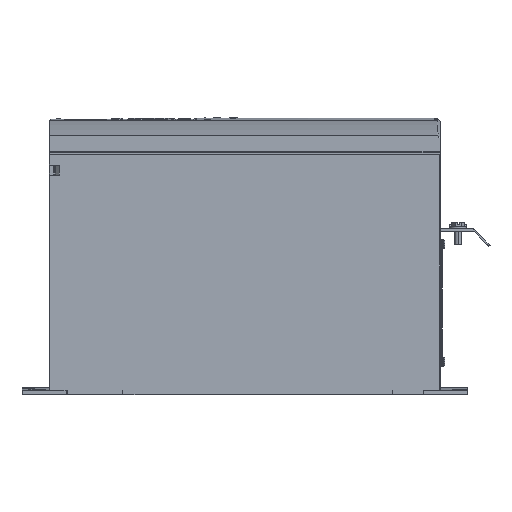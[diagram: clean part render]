
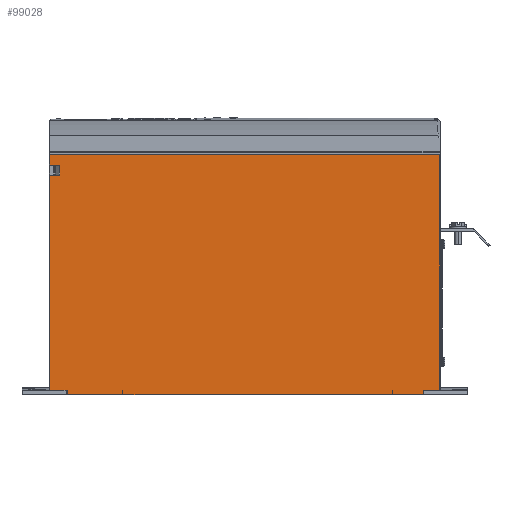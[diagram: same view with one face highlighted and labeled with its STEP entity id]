
A CAD part, left-side view. The second image highlights one B-rep face of the part: STEP entity #99028.
In plain terms, the highlighted planar face has unit normal (-1, 0, 0).
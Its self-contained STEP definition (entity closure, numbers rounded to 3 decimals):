
#34038=CARTESIAN_POINT('',(-82.5,-174.5,3.768));
#34064=CARTESIAN_POINT('',(-82.5,174.75,3.768));
#36341=DIRECTION('',(0.,-1.,0.));
#36342=VECTOR('',#36341,26.961);
#36343=CARTESIAN_POINT('',(-82.5,-132.589,0.));
#36344=LINE('',#36343,#36342);
#36438=DIRECTION('',(0.,0.,-1.));
#36439=VECTOR('',#36438,8.5);
#36440=CARTESIAN_POINT('',(-82.5,165.896,
204.95));
#36441=LINE('',#36440,#36439);
#36445=CARTESIAN_POINT('',(-82.5,165.896,
204.95));
#36446=CARTESIAN_POINT('',(-82.5,165.896,
204.967));
#36447=CARTESIAN_POINT('',(-82.5,165.899,
205.001));
#36448=CARTESIAN_POINT('',(-82.5,165.91,
205.054));
#36449=CARTESIAN_POINT('',(-82.5,165.932,
205.11));
#36450=CARTESIAN_POINT('',(-82.5,165.966,
205.169));
#36451=CARTESIAN_POINT('',(-82.5,166.013,
205.228));
#36452=CARTESIAN_POINT('',(-82.5,166.074,
205.284));
#36453=CARTESIAN_POINT('',(-82.5,166.151,
205.337));
#36454=CARTESIAN_POINT('',(-82.5,166.244,
205.383));
#36455=CARTESIAN_POINT('',(-82.5,166.352,
205.42));
#36456=CARTESIAN_POINT('',(-82.5,166.474,
205.444));
#36457=CARTESIAN_POINT('',(-82.5,166.559,
205.45));
#36458=CARTESIAN_POINT('',(-82.5,166.604,205.45));
#36463=DIRECTION('',(0.,-1.,0.));
#36464=VECTOR('',#36463,8.146);
#36465=CARTESIAN_POINT('',(-82.5,174.75,205.45));
#36466=LINE('',#36465,#36464);
#36470=DIRECTION('',(0.,0.,1.));
#36471=VECTOR('',#36470,9.2);
#36472=CARTESIAN_POINT('',(-82.5,174.75,205.45));
#36473=LINE('',#36472,#36471);
#36477=DIRECTION('',(0.,1.,0.));
#36478=VECTOR('',#36477,349.25);
#36479=CARTESIAN_POINT('',(-82.5,-174.5,214.65));
#36480=LINE('',#36479,#36478);
#36484=DIRECTION('',(0.,0.,-1.));
#36485=VECTOR('',#36484,210.882);
#36486=CARTESIAN_POINT('',(-82.5,-174.5,214.65));
#36487=LINE('',#36486,#36485);
#36491=DIRECTION('',(0.,1.,0.));
#36492=VECTOR('',#36491,14.95);
#36493=CARTESIAN_POINT('',(-82.5,-174.5,3.768));
#36494=LINE('',#36493,#36492);
#36498=DIRECTION('',(0.,0.,1.));
#36499=VECTOR('',#36498,3.768);
#36500=CARTESIAN_POINT('',(-82.5,-132.589,0.));
#36501=LINE('',#36500,#36499);
#36505=DIRECTION('',(0.,1.,0.));
#36506=VECTOR('',#36505,0.5);
#36507=CARTESIAN_POINT('',(-82.5,-132.589,3.768));
#36508=LINE('',#36507,#36506);
#36512=DIRECTION('',(0.,0.,-1.));
#36513=VECTOR('',#36512,3.775);
#36514=CARTESIAN_POINT('',(-82.5,-132.089,3.768));
#36515=LINE('',#36514,#36513);
#36519=DIRECTION('',(0.,1.,0.));
#36520=VECTOR('',#36519,241.178);
#36521=CARTESIAN_POINT('',(-82.5,-132.089,-0.007));
#36522=LINE('',#36521,#36520);
#36526=DIRECTION('',(0.,0.,1.));
#36527=VECTOR('',#36526,3.775);
#36528=CARTESIAN_POINT('',(-82.5,109.089,-0.007));
#36529=LINE('',#36528,#36527);
#36533=DIRECTION('',(0.,1.,0.));
#36534=VECTOR('',#36533,0.5);
#36535=CARTESIAN_POINT('',(-82.5,109.089,3.768));
#36536=LINE('',#36535,#36534);
#36540=DIRECTION('',(0.,0.,1.));
#36541=VECTOR('',#36540,3.768);
#36542=CARTESIAN_POINT('',(-82.5,109.589,0.));
#36543=LINE('',#36542,#36541);
#36547=DIRECTION('',(0.,1.,0.));
#36548=VECTOR('',#36547,15.594);
#36549=CARTESIAN_POINT('',(-82.5,159.156,3.768));
#36550=LINE('',#36549,#36548);
#36554=DIRECTION('',(0.,0.,1.));
#36555=VECTOR('',#36554,192.182);
#36556=CARTESIAN_POINT('',(-82.5,174.75,3.768));
#36557=LINE('',#36556,#36555);
#36561=DIRECTION('',(0.,1.,0.));
#36562=VECTOR('',#36561,8.146);
#36563=CARTESIAN_POINT('',(-82.5,166.604,195.95));
#36564=LINE('',#36563,#36562);
#36568=CARTESIAN_POINT('',(-82.5,166.604,195.95));
#36569=CARTESIAN_POINT('',(-82.5,166.559,
195.95));
#36570=CARTESIAN_POINT('',(-82.5,166.474,
195.956));
#36571=CARTESIAN_POINT('',(-82.5,166.353,
195.98));
#36572=CARTESIAN_POINT('',(-82.5,166.244,
196.017));
#36573=CARTESIAN_POINT('',(-82.5,166.152,
196.063));
#36574=CARTESIAN_POINT('',(-82.5,166.074,
196.116));
#36575=CARTESIAN_POINT('',(-82.5,166.013,
196.172));
#36576=CARTESIAN_POINT('',(-82.5,165.966,
196.231));
#36577=CARTESIAN_POINT('',(-82.5,165.932,
196.29));
#36578=CARTESIAN_POINT('',(-82.5,165.911,
196.346));
#36579=CARTESIAN_POINT('',(-82.5,165.899,
196.398));
#36580=CARTESIAN_POINT('',(-82.5,165.896,
196.433));
#36581=CARTESIAN_POINT('',(-82.5,165.896,
196.45));
#42597=DIRECTION('',(0.,0.,1.));
#42598=VECTOR('',#42597,3.768);
#42599=CARTESIAN_POINT('',(-82.5,-159.55,0.));
#42600=LINE('',#42599,#42598);
#42696=DIRECTION('',(0.,-1.,0.));
#42697=VECTOR('',#42696,49.567);
#42698=CARTESIAN_POINT('',(-82.5,159.156,0.));
#42699=LINE('',#42698,#42697);
#42724=DIRECTION('',(0.,0.,1.));
#42725=VECTOR('',#42724,3.768);
#42726=CARTESIAN_POINT('',(-82.5,159.156,0.));
#42727=LINE('',#42726,#42725);
#59593=CARTESIAN_POINT('',(-82.5,-132.089,-0.007));
#59594=CARTESIAN_POINT('',(-82.5,109.089,-0.007));
#59595=VERTEX_POINT('',#59593);
#59596=VERTEX_POINT('',#59594);
#59602=CARTESIAN_POINT('',(-82.5,109.089,3.768));
#59604=VERTEX_POINT('',#59602);
#59606=CARTESIAN_POINT('',(-82.5,-132.089,3.768));
#59608=VERTEX_POINT('',#59606);
#59615=CARTESIAN_POINT('',(-82.5,-132.589,0.));
#59616=VERTEX_POINT('',#59615);
#59617=CARTESIAN_POINT('',(-82.5,-159.55,0.));
#59618=VERTEX_POINT('',#59617);
#59641=CARTESIAN_POINT('',(-82.5,-132.589,3.768));
#59642=VERTEX_POINT('',#59641);
#59643=CARTESIAN_POINT('',(-82.5,-159.55,3.768));
#59645=VERTEX_POINT('',#59643);
#59690=VERTEX_POINT('',#34038);
#59697=CARTESIAN_POINT('',(-82.5,109.589,0.));
#59698=VERTEX_POINT('',#59697);
#59699=CARTESIAN_POINT('',(-82.5,159.156,0.));
#59700=VERTEX_POINT('',#59699);
#59723=CARTESIAN_POINT('',(-82.5,109.589,3.768));
#59724=VERTEX_POINT('',#59723);
#59725=CARTESIAN_POINT('',(-82.5,159.156,3.768));
#59727=VERTEX_POINT('',#59725);
#60187=CARTESIAN_POINT('',(-82.5,-174.5,214.65));
#60189=VERTEX_POINT('',#60187);
#60970=CARTESIAN_POINT('',(-82.5,174.75,214.65));
#60972=VERTEX_POINT('',#60970);
#60974=VERTEX_POINT('',#34064);
#61029=CARTESIAN_POINT('',(-82.5,165.896,
204.95));
#61030=CARTESIAN_POINT('',(-82.5,165.896,
196.45));
#61031=VERTEX_POINT('',#61029);
#61032=VERTEX_POINT('',#61030);
#61651=CARTESIAN_POINT('',(-82.5,174.75,195.95));
#61652=VERTEX_POINT('',#61651);
#61653=CARTESIAN_POINT('',(-82.5,166.604,195.95));
#61654=VERTEX_POINT('',#61653);
#61671=CARTESIAN_POINT('',(-82.5,174.75,205.45));
#61672=CARTESIAN_POINT('',(-82.5,166.604,205.45));
#61673=VERTEX_POINT('',#61671);
#61674=VERTEX_POINT('',#61672);
#98984=CARTESIAN_POINT('',(-82.5,-175.,3.768));
#98985=DIRECTION('',(-1.,0.,0.));
#98986=DIRECTION('',(0.,0.,1.));
#98987=AXIS2_PLACEMENT_3D('',#98984,#98985,#98986);
#98988=PLANE('',#98987);
#98990=ORIENTED_EDGE('',*,*,#98989,.F.);
#98992=ORIENTED_EDGE('',*,*,#98991,.T.);
#98994=ORIENTED_EDGE('',*,*,#98993,.F.);
#98996=ORIENTED_EDGE('',*,*,#98995,.T.);
#98998=ORIENTED_EDGE('',*,*,#98997,.F.);
#98999=ORIENTED_EDGE('',*,*,#96845,.T.);
#99000=ORIENTED_EDGE('',*,*,#96984,.T.);
#99002=ORIENTED_EDGE('',*,*,#99001,.F.);
#99003=ORIENTED_EDGE('',*,*,#98913,.F.);
#99004=ORIENTED_EDGE('',*,*,#98950,.T.);
#99005=ORIENTED_EDGE('',*,*,#96945,.T.);
#99007=ORIENTED_EDGE('',*,*,#99006,.T.);
#99009=ORIENTED_EDGE('',*,*,#99008,.T.);
#99011=ORIENTED_EDGE('',*,*,#99010,.T.);
#99012=ORIENTED_EDGE('',*,*,#96937,.T.);
#99014=ORIENTED_EDGE('',*,*,#99013,.F.);
#99016=ORIENTED_EDGE('',*,*,#99015,.F.);
#99018=ORIENTED_EDGE('',*,*,#99017,.T.);
#99019=ORIENTED_EDGE('',*,*,#97003,.T.);
#99021=ORIENTED_EDGE('',*,*,#99020,.T.);
#99023=ORIENTED_EDGE('',*,*,#99022,.F.);
#99025=ORIENTED_EDGE('',*,*,#99024,.T.);
#99026=EDGE_LOOP('',(#98990,#98992,#98994,#98996,#98998,#98999,#99000,#99002,
#99003,#99004,#99005,#99007,#99009,#99011,#99012,#99014,#99016,#99018,#99019,
#99021,#99023,#99025));
#99027=FACE_OUTER_BOUND('',#99026,.F.);
#99028=ADVANCED_FACE('',(#99027),#98988,.T.);
#36459=B_SPLINE_CURVE_WITH_KNOTS('',3,(#36445,#36446,#36447,#36448,#36449,
#36450,#36451,#36452,#36453,#36454,#36455,#36456,#36457,#36458),.UNSPECIFIED.,
.F.,.F.,(4,1,1,1,1,1,1,1,1,1,1,4),(0.,0.091,0.182,
0.273,0.364,0.455,0.545,
0.636,0.727,0.818,0.909,1.),
.UNSPECIFIED.);
#36582=B_SPLINE_CURVE_WITH_KNOTS('',3,(#36568,#36569,#36570,#36571,#36572,
#36573,#36574,#36575,#36576,#36577,#36578,#36579,#36580,#36581),.UNSPECIFIED.,
.F.,.F.,(4,1,1,1,1,1,1,1,1,1,1,4),(0.,0.091,0.182,
0.273,0.364,0.455,0.545,
0.636,0.727,0.818,0.909,1.),
.UNSPECIFIED.);
#96845=EDGE_CURVE('',#60189,#59690,#36487,.T.);
#96937=EDGE_CURVE('',#59604,#59724,#36536,.T.);
#96945=EDGE_CURVE('',#59642,#59608,#36508,.T.);
#96984=EDGE_CURVE('',#59690,#59645,#36494,.T.);
#97003=EDGE_CURVE('',#59727,#60974,#36550,.T.);
#98913=EDGE_CURVE('',#59616,#59618,#36344,.T.);
#98950=EDGE_CURVE('',#59616,#59642,#36501,.T.);
#98989=EDGE_CURVE('',#61031,#61032,#36441,.T.);
#98991=EDGE_CURVE('',#61031,#61674,#36459,.T.);
#98993=EDGE_CURVE('',#61673,#61674,#36466,.T.);
#98995=EDGE_CURVE('',#61673,#60972,#36473,.T.);
#98997=EDGE_CURVE('',#60189,#60972,#36480,.T.);
#99001=EDGE_CURVE('',#59618,#59645,#42600,.T.);
#99006=EDGE_CURVE('',#59608,#59595,#36515,.T.);
#99008=EDGE_CURVE('',#59595,#59596,#36522,.T.);
#99010=EDGE_CURVE('',#59596,#59604,#36529,.T.);
#99013=EDGE_CURVE('',#59698,#59724,#36543,.T.);
#99015=EDGE_CURVE('',#59700,#59698,#42699,.T.);
#99017=EDGE_CURVE('',#59700,#59727,#42727,.T.);
#99020=EDGE_CURVE('',#60974,#61652,#36557,.T.);
#99022=EDGE_CURVE('',#61654,#61652,#36564,.T.);
#99024=EDGE_CURVE('',#61654,#61032,#36582,.T.);
